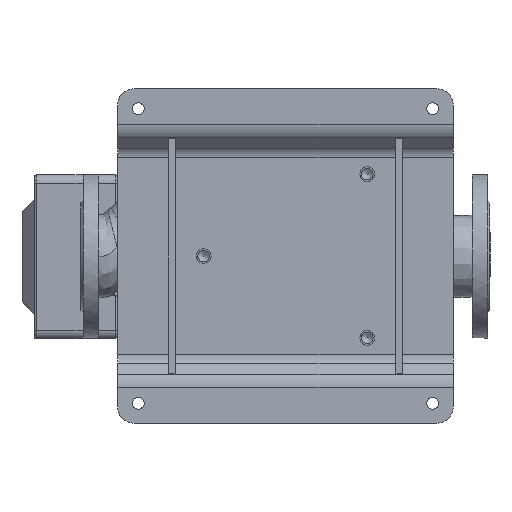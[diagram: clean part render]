
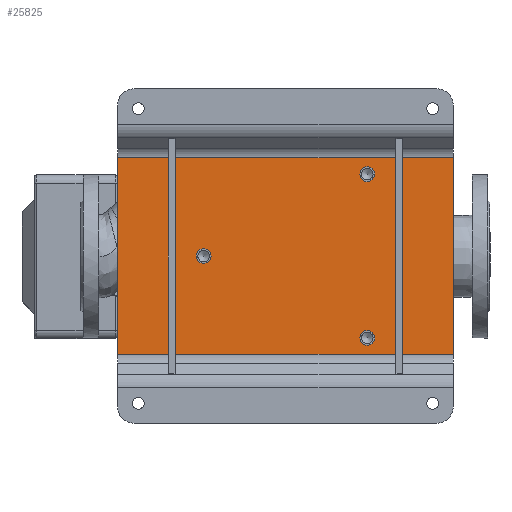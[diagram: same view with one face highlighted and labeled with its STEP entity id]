
A CAD part, top view. The second image highlights one B-rep face of the part: STEP entity #25825.
In plain terms, the highlighted planar face has unit normal (0, 0, 1) as drawn and (0, -1, 0) by its records, which use the part's own axes.
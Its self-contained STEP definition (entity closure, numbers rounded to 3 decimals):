
#1701 = DIRECTION ( 'NONE',  ( 0., -1., 0. ) ) ;
#2283 = DIRECTION ( 'NONE',  ( 0., 0., -1. ) ) ;
#2762 = VECTOR ( 'NONE', #42464, 1000. ) ;
#2846 = CIRCLE ( 'NONE', #40249, 9. ) ;
#3853 = ORIENTED_EDGE ( 'NONE', *, *, #17660, .F. ) ;
#4061 = CIRCLE ( 'NONE', #58420, 9. ) ;
#4781 = CARTESIAN_POINT ( 'NONE',  ( -120., -8., 205. ) ) ;
#7606 = DIRECTION ( 'NONE',  ( 0., -1., 0. ) ) ;
#8108 = EDGE_LOOP ( 'NONE', ( #3853 ) ) ;
#10023 = DIRECTION ( 'NONE',  ( -1., 0., 0. ) ) ;
#10648 = LINE ( 'NONE', #69611, #31686 ) ;
#11294 = AXIS2_PLACEMENT_3D ( 'NONE', #37408, #48038, #14322 ) ;
#11440 = VERTEX_POINT ( 'NONE', #34489 ) ;
#11710 = VERTEX_POINT ( 'NONE', #22377 ) ;
#12494 = CARTESIAN_POINT ( 'NONE',  ( -120., -8., 205. ) ) ;
#12560 = EDGE_LOOP ( 'NONE', ( #47146 ) ) ;
#13754 = CARTESIAN_POINT ( 'NONE',  ( -120., -8., -205. ) ) ;
#14322 = DIRECTION ( 'NONE',  ( 0., 0., -1. ) ) ;
#14940 = VERTEX_POINT ( 'NONE', #20626 ) ;
#15121 = CARTESIAN_POINT ( 'NONE',  ( 120., -8., 205. ) ) ;
#16510 = CARTESIAN_POINT ( 'NONE',  ( -100., -8., 100. ) ) ;
#16980 = DIRECTION ( 'NONE',  ( 0., 0., -1. ) ) ;
#17660 = EDGE_CURVE ( 'NONE', #52666, #52666, #63427, .T. ) ;
#18083 = EDGE_CURVE ( 'NONE', #68023, #11440, #10648, .T. ) ;
#19885 = ORIENTED_EDGE ( 'NONE', *, *, #18083, .F. ) ;
#20358 = FACE_OUTER_BOUND ( 'NONE', #63116, .T. ) ;
#20626 = CARTESIAN_POINT ( 'NONE',  ( 100., -8., 91. ) ) ;
#22377 = CARTESIAN_POINT ( 'NONE',  ( 0., -8., -109. ) ) ;
#22891 = DIRECTION ( 'NONE',  ( 0., -1., 0. ) ) ;
#23455 = EDGE_CURVE ( 'NONE', #26203, #64712, #70037, .T. ) ;
#23745 = AXIS2_PLACEMENT_3D ( 'NONE', #16510, #22891, #59456 ) ;
#24973 = FACE_BOUND ( 'NONE', #54655, .T. ) ;
#25005 = LINE ( 'NONE', #4781, #25445 ) ;
#25445 = VECTOR ( 'NONE', #52342, 1000. ) ;
#25825 = ADVANCED_FACE ( 'NONE', ( #24973, #30988, #57622, #20358 ), #68655, .T. ) ;
#26203 = VERTEX_POINT ( 'NONE', #45850 ) ;
#28897 = CARTESIAN_POINT ( 'NONE',  ( 0., -8., -100. ) ) ;
#29601 = CARTESIAN_POINT ( 'NONE',  ( -100., -8., 91. ) ) ;
#30023 = ORIENTED_EDGE ( 'NONE', *, *, #23455, .F. ) ;
#30988 = FACE_BOUND ( 'NONE', #12560, .T. ) ;
#31241 = DIRECTION ( 'NONE',  ( 1., 0., 0. ) ) ;
#31686 = VECTOR ( 'NONE', #31241, 1000. ) ;
#32277 = ORIENTED_EDGE ( 'NONE', *, *, #64178, .F. ) ;
#34489 = CARTESIAN_POINT ( 'NONE',  ( 120., -8., 205. ) ) ;
#37408 = CARTESIAN_POINT ( 'NONE',  ( 0., -8., 0. ) ) ;
#40249 = AXIS2_PLACEMENT_3D ( 'NONE', #66329, #1701, #16980 ) ;
#42464 = DIRECTION ( 'NONE',  ( 0., 0., -1. ) ) ;
#45850 = CARTESIAN_POINT ( 'NONE',  ( 120., -8., -205. ) ) ;
#46982 = VECTOR ( 'NONE', #10023, 1000. ) ;
#47146 = ORIENTED_EDGE ( 'NONE', *, *, #65633, .F. ) ;
#48038 = DIRECTION ( 'NONE',  ( 0., -1., 0. ) ) ;
#50596 = EDGE_CURVE ( 'NONE', #11440, #26203, #63779, .T. ) ;
#50731 = EDGE_CURVE ( 'NONE', #64712, #68023, #25005, .T. ) ;
#51142 = ORIENTED_EDGE ( 'NONE', *, *, #50731, .F. ) ;
#52342 = DIRECTION ( 'NONE',  ( 0., 0., 1. ) ) ;
#52666 = VERTEX_POINT ( 'NONE', #29601 ) ;
#54655 = EDGE_LOOP ( 'NONE', ( #32277 ) ) ;
#57622 = FACE_BOUND ( 'NONE', #8108, .T. ) ;
#58420 = AXIS2_PLACEMENT_3D ( 'NONE', #28897, #7606, #2283 ) ;
#58660 = CARTESIAN_POINT ( 'NONE',  ( -120., -8., -205. ) ) ;
#59456 = DIRECTION ( 'NONE',  ( 0., 0., -1. ) ) ;
#63116 = EDGE_LOOP ( 'NONE', ( #69101, #19885, #51142, #30023 ) ) ;
#63427 = CIRCLE ( 'NONE', #23745, 9. ) ;
#63779 = LINE ( 'NONE', #15121, #2762 ) ;
#64178 = EDGE_CURVE ( 'NONE', #14940, #14940, #2846, .T. ) ;
#64712 = VERTEX_POINT ( 'NONE', #13754 ) ;
#65633 = EDGE_CURVE ( 'NONE', #11710, #11710, #4061, .T. ) ;
#66329 = CARTESIAN_POINT ( 'NONE',  ( 100., -8., 100. ) ) ;
#68023 = VERTEX_POINT ( 'NONE', #12494 ) ;
#68655 = PLANE ( 'NONE',  #11294 ) ;
#69101 = ORIENTED_EDGE ( 'NONE', *, *, #50596, .F. ) ;
#69611 = CARTESIAN_POINT ( 'NONE',  ( -120., -8., 205. ) ) ;
#70037 = LINE ( 'NONE', #58660, #46982 ) ;
